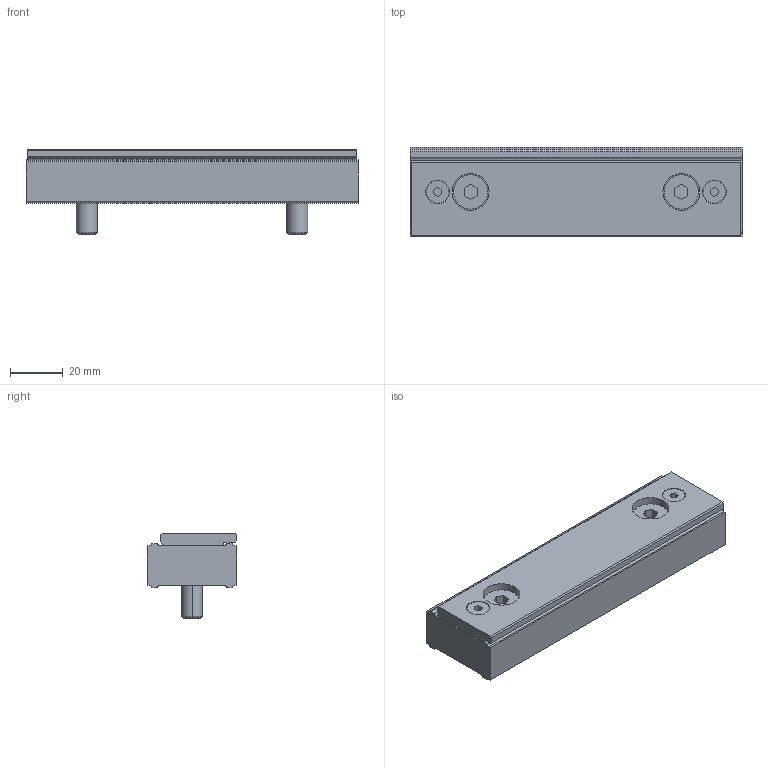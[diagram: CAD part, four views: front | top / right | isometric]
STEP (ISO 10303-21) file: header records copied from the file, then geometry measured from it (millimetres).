
FILE_DESCRIPTION (( 'STEP AP214' ), '1' );
FILE_NAME ('50111.STEP', '2024-03-04T07:08:11', ( '' ), ( '' ), 'SwSTEP 2.0', 'SolidWorks 2021', '' );
FILE_SCHEMA (( 'AUTOMOTIVE_DESIGN' ));
Length unit declared in the file: millimetre
Products named in the file (1): 50111
Bounding box: 126 x 34 x 32.5 mm (x, y, z)
Volume: 80924.5 mm3; surface area: 26311 mm2
Topology: 6 solids, 6 shells, 149 faces, 357 edges, 234 vertices
Faces by surface type: plane 81, cylinder 52, bspline 8, cone 8
Entity records: 6529 total; most frequent: CARTESIAN_POINT 1241, DIRECTION 749, ORIENTED_EDGE 714, EDGE_CURVE 357, AXIS2_PLACEMENT_3D 262, VERTEX_POINT 234, LINE 225, VECTOR 225
